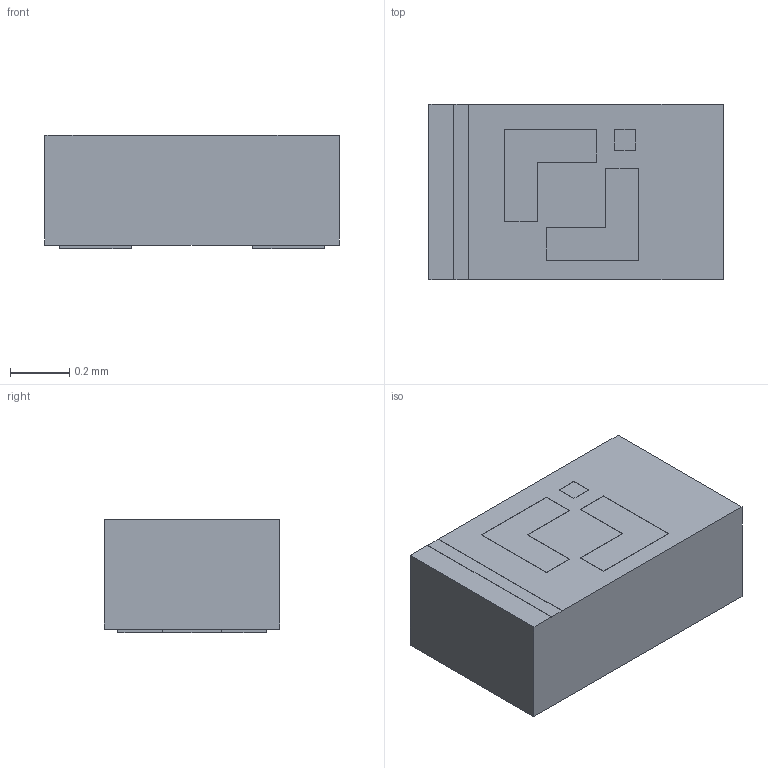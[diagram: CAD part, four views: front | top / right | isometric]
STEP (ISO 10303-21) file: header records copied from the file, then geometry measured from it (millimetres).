
FILE_DESCRIPTION(('HOOPS Exchange Step'),'2;1');
FILE_NAME('C:\Users\18121\AppData\Local\Packages\Shapr3D.Shapr3D_dvv5p1vgwv6mp\TempState\export\temp_export','2025-12-05T10:50:25+08:00',('18121'),('Shapr3D Limited'),'HOOPS Exchange 2025.7','Shapr3D','Authorized');
FILE_SCHEMA( ('AP242_MANAGED_MODEL_BASED_3D_ENGINEERING_MIM_LF {1 0 10303 442 1 1 4}') );
Length unit declared in the file: millimetre
Products named in the file (1): root
Bounding box: 0.99 x 0.59 x 0.38 mm (x, y, z)
Volume: 0.2 mm3; surface area: 2.4 mm2
Topology: 1 solids, 1 shells, 44 faces, 108 edges, 72 vertices
Faces by surface type: plane 44
Entity records: 1354 total; most frequent: CARTESIAN_POINT 226, ORIENTED_EDGE 216, DIRECTION 200, VECTOR 108, LINE 108, EDGE_CURVE 108, VERTEX_POINT 72, EDGE_LOOP 50
